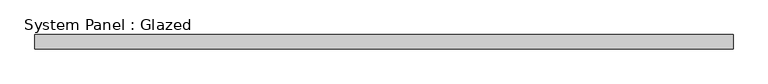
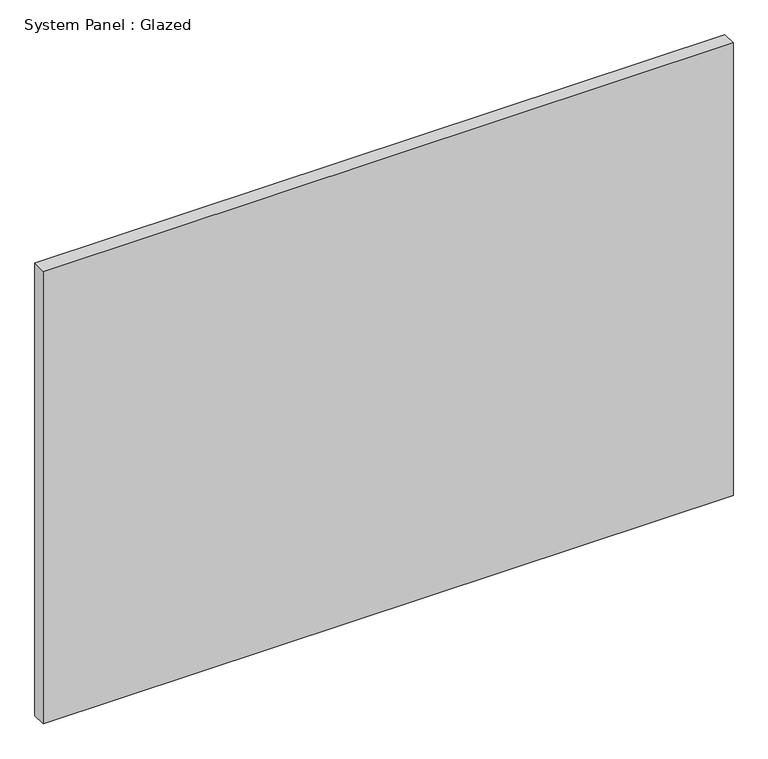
"""IFC4 building model written with IfcOpenShell, lengths in millimetres: plate geometry, System Panel : Glazed."""

from ifc_helpers import new_model, si_unit, origin, origin_with_axes, place, context, project, spatial, polyline, outline, extrude, source, transform, mapped, element, save


def system_panel_glazed_64673e68(model_context):
    return source(origin(), model_context, "Body", "SweptSolid", [
        extrude(outline(polyline([(622.3, 19.05), (-622.3, 19.05), (-622.3, 44.45), (622.3, 44.45), (622.3, 19.05)])), origin_with_axes(), (0.0, 0.0, 1.0), 863.6),
    ])


if __name__ == "__main__":
    model = new_model("IFC4")
    model_context = context("Model", 3, world=origin())
    ifc_project = project(units=[si_unit("LENGTHUNIT", "METRE", prefix="MILLI")], contexts=[model_context])
    site = spatial("IfcSite", under=ifc_project)
    building = spatial("IfcBuilding", under=site)
    placement = place(None, origin())
    system_panel_glazed_shape = system_panel_glazed_64673e68(model_context)
    element("IfcPlate", 1, ObjectType="System Panel : Glazed", at=placement, inside=building, context=model_context, shape_type="MappedRepresentation", body=[
        mapped(system_panel_glazed_shape, transform((0.0, 0.0, 0.0), x_axis=(1.0, 0.0, 0.0), y_axis=(0.0, 1.0, 0.0), z_axis=(0.0, 0.0, 1.0))),
    ])
    save(model, "model.ifc")
